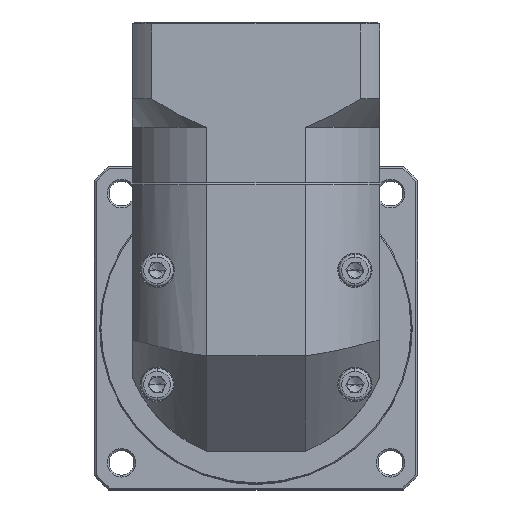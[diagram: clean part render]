
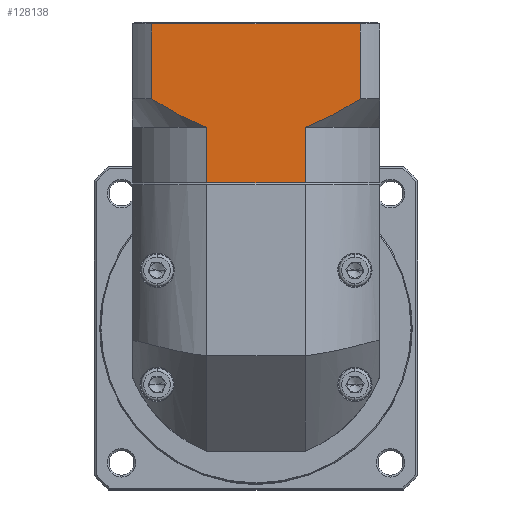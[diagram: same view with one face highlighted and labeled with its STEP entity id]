
A CAD part, top view. The second image highlights one B-rep face of the part: STEP entity #128138.
In plain terms, the highlighted planar face has unit normal (0, 0, 1).
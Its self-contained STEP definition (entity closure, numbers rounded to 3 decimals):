
#1593 = LINE ( 'NONE', #121003, #4900 ) ;
#4900 = VECTOR ( 'NONE', #13640, 1000. ) ;
#5675 = CARTESIAN_POINT ( 'NONE',  ( -64.937, 80.015, 46.022 ) ) ;
#5731 = VECTOR ( 'NONE', #86040, 1000. ) ;
#5761 = FACE_OUTER_BOUND ( 'NONE', #50147, .T. ) ;
#7610 = ORIENTED_EDGE ( 'NONE', *, *, #13991, .T. ) ;
#8097 = ORIENTED_EDGE ( 'NONE', *, *, #23348, .F. ) ;
#10750 = CARTESIAN_POINT ( 'NONE',  ( -110.428, 121.715, 46.022 ) ) ;
#13070 = CARTESIAN_POINT ( 'NONE',  ( -58.705, 97.26, 46.022 ) ) ;
#13640 = DIRECTION ( 'NONE',  ( 0., 1., 0. ) ) ;
#13991 = EDGE_CURVE ( 'NONE', #119928, #62333, #64816, .T. ) ;
#19497 = ORIENTED_EDGE ( 'NONE', *, *, #92718, .F. ) ;
#21689 = CARTESIAN_POINT ( 'NONE',  ( -93.456, 95.457, 46.022 ) ) ;
#22136 = CARTESIAN_POINT ( 'NONE',  ( -103.024, 100.566, 46.022 ) ) ;
#22395 = CARTESIAN_POINT ( 'NONE',  ( -61.771, 95.805, 46.022 ) ) ;
#23243 = DIRECTION ( 'NONE',  ( 0., 1., 0. ) ) ;
#23348 = EDGE_CURVE ( 'NONE', #85011, #116591, #45114, .T. ) ;
#26412 = CARTESIAN_POINT ( 'NONE',  ( -90.918, 80.015, 46.022 ) ) ;
#26721 = VECTOR ( 'NONE', #34938, 1000. ) ;
#27129 = EDGE_CURVE ( 'NONE', #120797, #29606, #124545, .T. ) ;
#29606 = VERTEX_POINT ( 'NONE', #5675 ) ;
#33289 = VECTOR ( 'NONE', #60866, 1000. ) ;
#34532 = CARTESIAN_POINT ( 'NONE',  ( -64.295, 94.753, 46.022 ) ) ;
#34938 = DIRECTION ( 'NONE',  ( 0., -1., 0. ) ) ;
#35990 = VERTEX_POINT ( 'NONE', #66250 ) ;
#41752 = DIRECTION ( 'NONE',  ( 1., 0., 0. ) ) ;
#43481 = ORIENTED_EDGE ( 'NONE', *, *, #27129, .F. ) ;
#45114 = LINE ( 'NONE', #56800, #26721 ) ;
#48216 = VECTOR ( 'NONE', #123225, 1000. ) ;
#48642 = EDGE_CURVE ( 'NONE', #121935, #29606, #113206, .T. ) ;
#50147 = EDGE_LOOP ( 'NONE', ( #8097, #54905, #128583, #7610, #19497, #120918, #43481, #136614 ) ) ;
#54905 = ORIENTED_EDGE ( 'NONE', *, *, #101948, .T. ) ;
#56800 = CARTESIAN_POINT ( 'NONE',  ( -50.541, 94.515, 46.022 ) ) ;
#57085 = CARTESIAN_POINT ( 'NONE',  ( -50.541, 102.015, 46.022 ) ) ;
#57103 = CARTESIAN_POINT ( 'NONE',  ( -64.937, 94.515, 46.022 ) ) ;
#59273 = CARTESIAN_POINT ( 'NONE',  ( -105.314, 102.015, 46.022 ) ) ;
#60866 = DIRECTION ( 'NONE',  ( 0., 1., 0. ) ) ;
#62333 = VERTEX_POINT ( 'NONE', #100096 ) ;
#64816 = B_SPLINE_CURVE_WITH_KNOTS ( 'NONE', 3,
 ( #116049, #128602, #22136, #84542, #127236, #75637, #21689, #74276 ),
 .UNSPECIFIED., .F., .F.,
 ( 4, 2, 2, 4 ),
 ( 0.058, 0.062, 0.066, 0.074 ),
 .UNSPECIFIED. ) ;
#66250 = CARTESIAN_POINT ( 'NONE',  ( -105.314, 121.715, 46.022 ) ) ;
#69741 = CARTESIAN_POINT ( 'NONE',  ( -105.314, 94.515, 46.022 ) ) ;
#73428 = EDGE_CURVE ( 'NONE', #120797, #116591, #121671, .T. ) ;
#73906 = LINE ( 'NONE', #10750, #5731 ) ;
#74276 = CARTESIAN_POINT ( 'NONE',  ( -90.918, 94.515, 46.022 ) ) ;
#75424 = CARTESIAN_POINT ( 'NONE',  ( -64.937, 94.515, 46.022 ) ) ;
#75637 = CARTESIAN_POINT ( 'NONE',  ( -95.908, 96.601, 46.022 ) ) ;
#75906 = CARTESIAN_POINT ( 'NONE',  ( -52.81, 100.553, 46.022 ) ) ;
#77269 = CARTESIAN_POINT ( 'NONE',  ( -55.124, 99.165, 46.022 ) ) ;
#83738 = EDGE_CURVE ( 'NONE', #119928, #35990, #113017, .T. ) ;
#84542 = CARTESIAN_POINT ( 'NONE',  ( -100.689, 99.181, 46.022 ) ) ;
#85011 = VERTEX_POINT ( 'NONE', #134311 ) ;
#86040 = DIRECTION ( 'NONE',  ( -1., 0., 0. ) ) ;
#87437 = CARTESIAN_POINT ( 'NONE',  ( -110.428, 122.215, 46.022 ) ) ;
#92718 = EDGE_CURVE ( 'NONE', #121935, #62333, #1593, .T. ) ;
#96816 = CARTESIAN_POINT ( 'NONE',  ( -59.917, 96.655, 46.022 ) ) ;
#98568 = DIRECTION ( 'NONE',  ( 0., 0., -1. ) ) ;
#100096 = CARTESIAN_POINT ( 'NONE',  ( -90.918, 94.515, 46.022 ) ) ;
#101848 = CARTESIAN_POINT ( 'NONE',  ( -64.937, 94.515, 46.022 ) ) ;
#101948 = EDGE_CURVE ( 'NONE', #85011, #35990, #73906, .T. ) ;
#105354 = CARTESIAN_POINT ( 'NONE',  ( -110.428, 80.015, 46.022 ) ) ;
#105536 = AXIS2_PLACEMENT_3D ( 'NONE', #87437, #98568, #23243 ) ;
#107445 = CARTESIAN_POINT ( 'NONE',  ( -63.656, 95.005, 46.022 ) ) ;
#113017 = LINE ( 'NONE', #69741, #33289 ) ;
#113206 = LINE ( 'NONE', #105354, #119856 ) ;
#116049 = CARTESIAN_POINT ( 'NONE',  ( -105.314, 102.015, 46.022 ) ) ;
#116591 = VERTEX_POINT ( 'NONE', #57085 ) ;
#118156 = CARTESIAN_POINT ( 'NONE',  ( -50.541, 102.015, 46.022 ) ) ;
#119856 = VECTOR ( 'NONE', #41752, 1000. ) ;
#119928 = VERTEX_POINT ( 'NONE', #59273 ) ;
#120797 = VERTEX_POINT ( 'NONE', #57103 ) ;
#120918 = ORIENTED_EDGE ( 'NONE', *, *, #48642, .T. ) ;
#121003 = CARTESIAN_POINT ( 'NONE',  ( -90.918, 94.515, 46.022 ) ) ;
#121671 = B_SPLINE_CURVE_WITH_KNOTS ( 'NONE', 3,
 ( #75424, #34532, #107445, #129309, #22395, #96816, #13070, #77269, #75906, #118156 ),
 .UNSPECIFIED., .F., .F.,
 ( 4, 2, 2, 2, 4 ),
 ( 0.101, 0.103, 0.105, 0.109, 0.117 ),
 .UNSPECIFIED. ) ;
#121935 = VERTEX_POINT ( 'NONE', #26412 ) ;
#123225 = DIRECTION ( 'NONE',  ( 0., -1., 0. ) ) ;
#124545 = LINE ( 'NONE', #101848, #48216 ) ;
#127236 = CARTESIAN_POINT ( 'NONE',  ( -99.504, 98.511, 46.022 ) ) ;
#128138 = ADVANCED_FACE ( 'NONE', ( #5761 ), #129260, .F. ) ;
#128583 = ORIENTED_EDGE ( 'NONE', *, *, #83738, .F. ) ;
#128602 = CARTESIAN_POINT ( 'NONE',  ( -104.175, 101.281, 46.022 ) ) ;
#129260 = PLANE ( 'NONE',  #105536 ) ;
#129309 = CARTESIAN_POINT ( 'NONE',  ( -62.395, 95.531, 46.022 ) ) ;
#134311 = CARTESIAN_POINT ( 'NONE',  ( -50.541, 121.715, 46.022 ) ) ;
#136614 = ORIENTED_EDGE ( 'NONE', *, *, #73428, .T. ) ;
